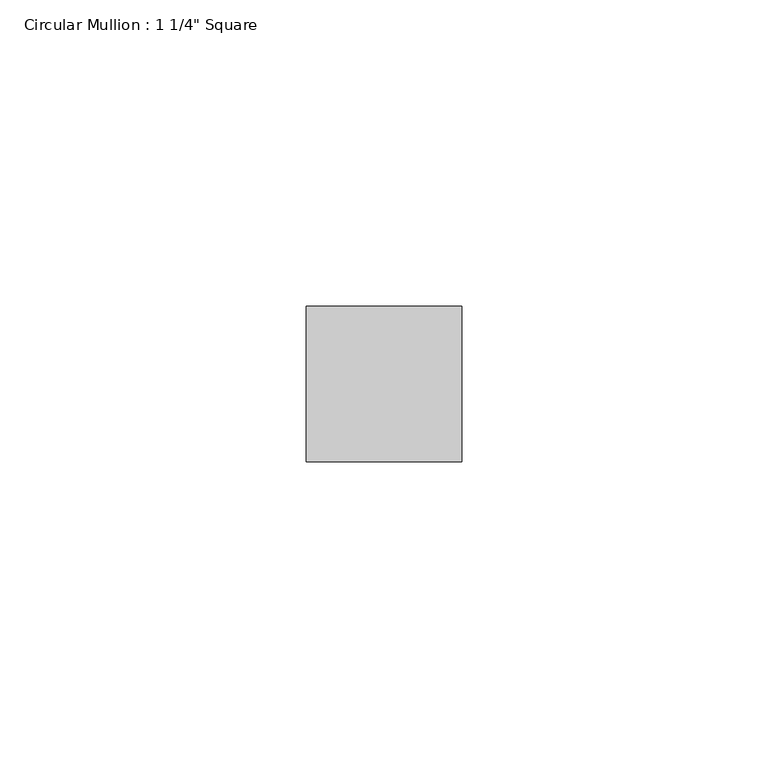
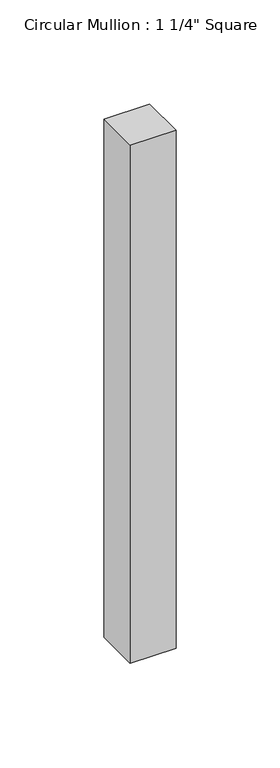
"""IFC4 building model written with IfcOpenShell, lengths in millimetres: member geometry."""

from ifc_helpers import new_model, si_unit, frame, origin, place, context, project, spatial, polyline, outline, extrude, source, transform, mapped, element, save


def member_b565511f(model_context):
    return source(origin(), model_context, "Body", "SweptSolid", [
        extrude(outline(polyline([(0.0, 12.7), (0.0, -12.7), (-25.4, -12.7), (-25.4, 12.7), (0.0, 12.7)])), frame((0.0, 0.0, -304.3289943), z_axis=(0.0, 0.0, 1.0), x_axis=(1.0, 0.0, 0.0)), (0.0, 0.0, 1.0), 304.3289943),
    ])


if __name__ == "__main__":
    model = new_model("IFC4")
    model_context = context("Model", 3, world=origin())
    ifc_project = project(units=[si_unit("LENGTHUNIT", "METRE", prefix="MILLI")], contexts=[model_context])
    site = spatial("IfcSite", under=ifc_project)
    building = spatial("IfcBuilding", under=site)
    placement = place(None, origin())
    member_shape = member_b565511f(model_context)
    element("IfcMember", 1, ObjectType="Circular Mullion : 1 1/4\" Square", at=placement, inside=building, context=model_context, shape_type="MappedRepresentation", body=[
        mapped(member_shape, transform((0.0, 0.0, 0.0), x_axis=(1.0, 0.0, 0.0), y_axis=(0.0, 1.0, 0.0), z_axis=(0.0, 0.0, 1.0))),
    ])
    save(model, "model.ifc")
